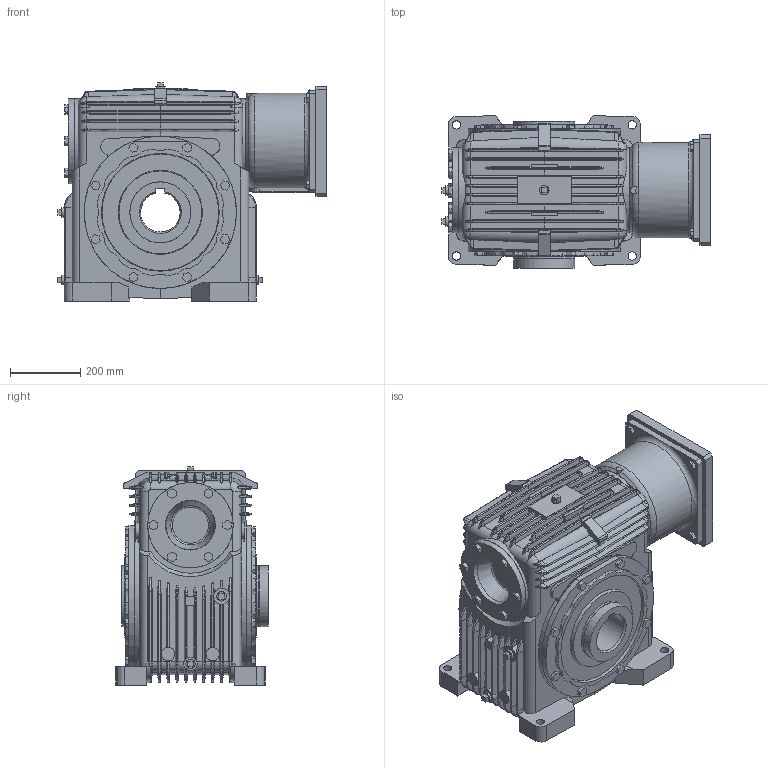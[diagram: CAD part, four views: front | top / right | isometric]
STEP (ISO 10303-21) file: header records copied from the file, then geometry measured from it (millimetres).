
FILE_DESCRIPTION(/* description */ ('Unknown'),/* implementation_level */ '2;1');
FILE_NAME(/* name */ 'O80CV-1-D01SBD-',/* time_stamp */ '2024-11-21T16:12:29-05:00',/* author */ ('Unknown'),/* organization */ ('Unknown'),/* preprocessor_version */ 'ST-DEVELOPER v19.4',/* originating_system */ 'Solid Edge',/* authorisation */ 'Unknown');
FILE_SCHEMA (('AUTOMOTIVE_DESIGN {1 0 10303 214 3 1 1}'));
Products named in the file (8): O80CV-1-D01SBD-; 80-1-CP; 80-OUTHS-4437; 80-OUTH-4437; 80-WCAP; 80-SM20-4-CP; MP5D-01-CP; KM900-S-48
Assembly tree (7 placements, depth 2):
  O80CV-1-D01SBD-
    80-1-CP
    80-OUTHS-4437
    80-OUTH-4437
    80-WCAP
    80-SM20-4-CP
    MP5D-01-CP
    KM900-S-48
Bounding box: 766.2 x 435.61 x 623.63 mm (x, y, z)
Volume: 95835876.1 mm3; surface area: 4630237.9 mm2
Topology: 7 solids, 8 shells, 1344 faces, 3323 edges, 2080 vertices
Faces by surface type: plane 750, bspline 358, cylinder 218, cone 14, torus 4
Full cylindrical faces by diameter (mm): 0.254 x5, 13.835 x4, 15.875 x8, 23.812 x10, 26.924 x4, 38.1 x6, 45.72 x2, 48 x1, 50.787 x1, 50.8 x1, 53.975 x1, 105.2 x1, 106.68 x1, 133 x1, 154 x1, 173.863 x1, 174.625 x4, 175.133 x2, 177.8 x1, 177.825 x2, 178.308 x1, 178.333 x1, 202.692 x1, 203.2 x1, 243.84 x3, 250 x1, 254 x1, 269.875 x2, 435.102 x2
Entity records: 61103 total; most frequent: CARTESIAN_POINT 29161, ORIENTED_EDGE 6418, DIRECTION 5245, EDGE_CURVE 3209, VERTEX_POINT 2049, LINE 1913, VECTOR 1913, AXIS2_PLACEMENT_3D 1666
